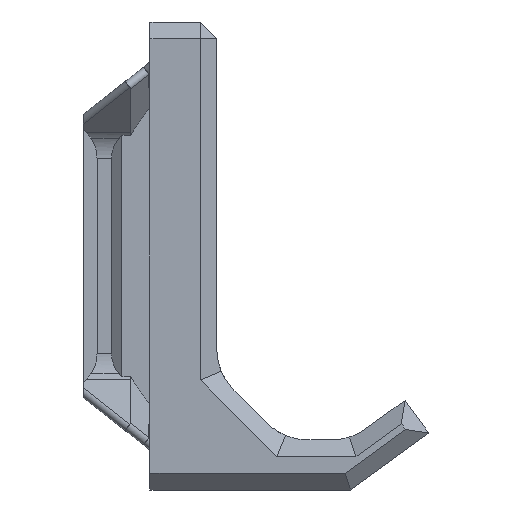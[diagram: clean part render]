
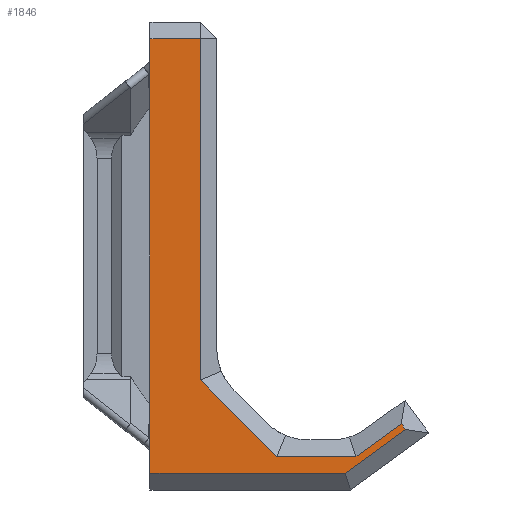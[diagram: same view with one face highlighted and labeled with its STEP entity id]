
A CAD part, front view. The second image highlights one B-rep face of the part: STEP entity #1846.
In plain terms, the highlighted planar face has unit normal (0, -1, 0).
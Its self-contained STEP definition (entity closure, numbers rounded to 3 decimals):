
#1420=CARTESIAN_POINT('',(-1.068,-19.,1.932));
#1421=VERTEX_POINT('',#1420);
#1422=CARTESIAN_POINT('',(-1.068,-19.,27.932));
#1423=VERTEX_POINT('',#1422);
#1424=CARTESIAN_POINT('',(-1.068,-19.,1.932));
#1425=DIRECTION('',(-0.,-0.,1.));
#1426=VECTOR('',#1425,26.);
#1427=LINE('',#1424,#1426);
#1428=EDGE_CURVE('',#1421,#1423,#1427,.T.);
#1776=CARTESIAN_POINT('',(0.932,-19.,0.93));
#1777=DIRECTION('',(-0.,1.,-0.));
#1778=DIRECTION('',(-1.,-0.,-0.));
#1779=AXIS2_PLACEMENT_3D('',#1776,#1777,#1778);
#1780=PLANE('',#1779);
#1781=CARTESIAN_POINT('',(1.932,-19.,7.518));
#1782=VERTEX_POINT('',#1781);
#1783=CARTESIAN_POINT('',(1.932,-19.,27.932));
#1784=VERTEX_POINT('',#1783);
#1785=CARTESIAN_POINT('',(1.932,-19.,7.518));
#1786=DIRECTION('',(-0.,0.,1.));
#1787=VECTOR('',#1786,20.414);
#1788=LINE('',#1785,#1787);
#1789=EDGE_CURVE('',#1782,#1784,#1788,.T.);
#1790=ORIENTED_EDGE('',*,*,#1789,.T.);
#1791=CARTESIAN_POINT('',(1.932,-19.,27.932));
#1792=DIRECTION('',(-1.,-0.,-0.));
#1793=VECTOR('',#1792,3.);
#1794=LINE('',#1791,#1793);
#1795=EDGE_CURVE('',#1784,#1423,#1794,.T.);
#1796=ORIENTED_EDGE('',*,*,#1795,.T.);
#1797=ORIENTED_EDGE('',*,*,#1428,.F.);
#1798=CARTESIAN_POINT('',(10.607,-19.,1.932));
#1799=VERTEX_POINT('',#1798);
#1800=CARTESIAN_POINT('',(-1.068,-19.,1.932));
#1801=DIRECTION('',(1.,0.,0.));
#1802=VECTOR('',#1801,11.675);
#1803=LINE('',#1800,#1802);
#1804=EDGE_CURVE('',#1421,#1799,#1803,.T.);
#1805=ORIENTED_EDGE('',*,*,#1804,.T.);
#1806=CARTESIAN_POINT('',(14.22,-19.,4.557));
#1807=VERTEX_POINT('',#1806);
#1808=CARTESIAN_POINT('',(10.607,-19.,1.932));
#1809=DIRECTION('',(0.809,0.,0.588));
#1810=VECTOR('',#1809,4.466);
#1811=LINE('',#1808,#1810);
#1812=EDGE_CURVE('',#1799,#1807,#1811,.T.);
#1813=ORIENTED_EDGE('',*,*,#1812,.T.);
#1814=CARTESIAN_POINT('',(13.969,-19.,4.902));
#1815=VERTEX_POINT('',#1814);
#1816=CARTESIAN_POINT('',(14.22,-19.,4.557));
#1817=DIRECTION('',(-0.588,-0.,0.809));
#1818=VECTOR('',#1817,0.427);
#1819=LINE('',#1816,#1818);
#1820=EDGE_CURVE('',#1807,#1815,#1819,.T.);
#1821=ORIENTED_EDGE('',*,*,#1820,.T.);
#1822=CARTESIAN_POINT('',(11.257,-19.,2.932));
#1823=VERTEX_POINT('',#1822);
#1824=CARTESIAN_POINT('',(13.969,-19.,4.902));
#1825=DIRECTION('',(-0.809,-0.,-0.588));
#1826=VECTOR('',#1825,3.352);
#1827=LINE('',#1824,#1826);
#1828=EDGE_CURVE('',#1815,#1823,#1827,.T.);
#1829=ORIENTED_EDGE('',*,*,#1828,.T.);
#1830=CARTESIAN_POINT('',(6.518,-19.,2.932));
#1831=VERTEX_POINT('',#1830);
#1832=CARTESIAN_POINT('',(11.257,-19.,2.932));
#1833=DIRECTION('',(-1.,-0.,-0.));
#1834=VECTOR('',#1833,4.739);
#1835=LINE('',#1832,#1834);
#1836=EDGE_CURVE('',#1823,#1831,#1835,.T.);
#1837=ORIENTED_EDGE('',*,*,#1836,.T.);
#1838=CARTESIAN_POINT('',(6.518,-19.,2.932));
#1839=DIRECTION('',(-0.707,-0.,0.707));
#1840=VECTOR('',#1839,6.485);
#1841=LINE('',#1838,#1840);
#1842=EDGE_CURVE('',#1831,#1782,#1841,.T.);
#1843=ORIENTED_EDGE('',*,*,#1842,.T.);
#1844=EDGE_LOOP('',(#1790,#1796,#1797,#1805,#1813,#1821,#1829,#1837,#1843));
#1845=FACE_BOUND('',#1844,.T.);
#1846=ADVANCED_FACE('',(#1845),#1780,.F.);
